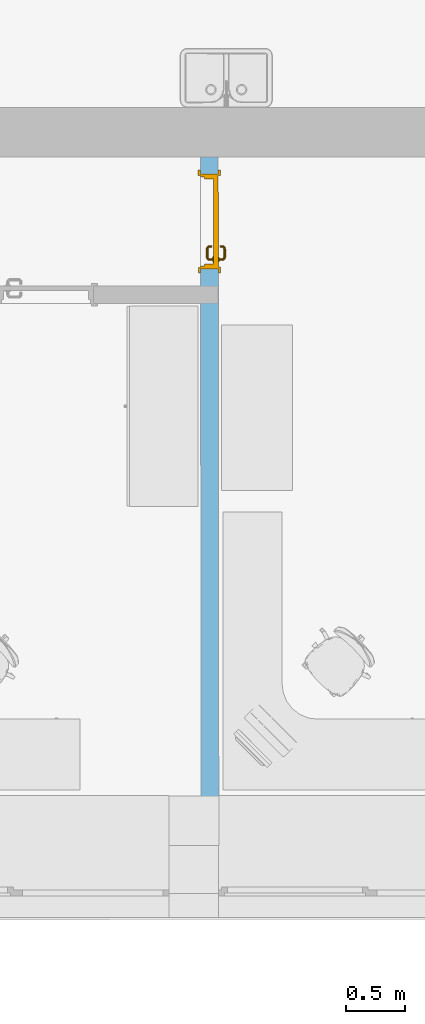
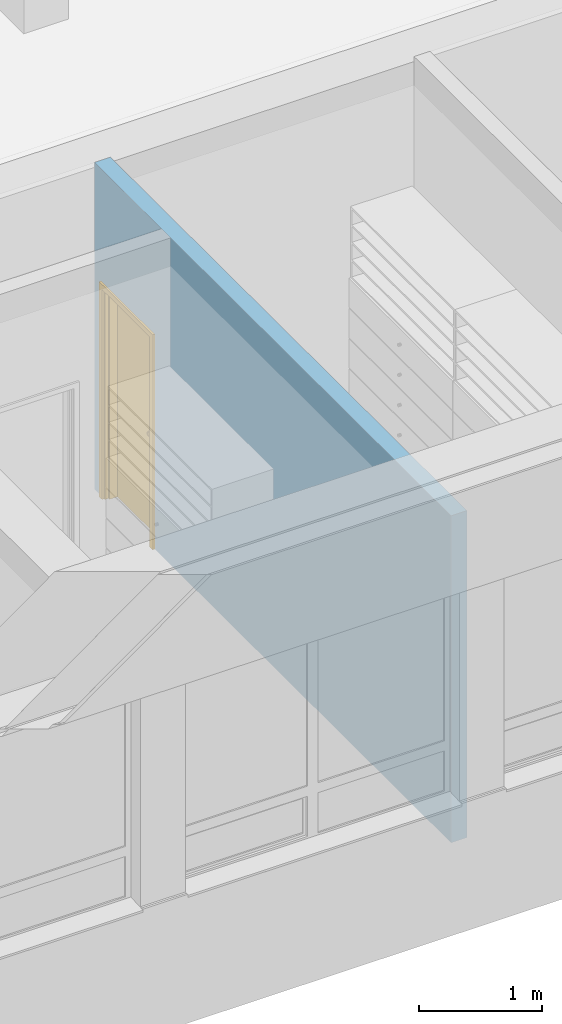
# One storey, part 66 of 194: 1 door, 1 opening, plus 1 element that does not belong to this part.
"""IFC2X3 building model written with IfcOpenShell, lengths in millimetres."""

from ifc_helpers import new_model, entity, si_unit, converted_unit, derived_unit, money_unit, direction, frame, origin_with_axes, origin_2d_with_axis, place, context, subcontext, project, spatial, polyline, rectangle, outline, extrude, open_shell, faceted_brep, surface_model, material, layer, layer_set, layer_usage, type_object, element, fill, save


model = new_model("IFC2X3")

# Units and contexts
model_context = context("Model", 3, precision=1e-05, world=origin_with_axes(), true_north=direction((0.0, 1.0)))
body_context = subcontext(model_context, "Body", "Model", "MODEL_VIEW")
ifc_project = project(units=[si_unit("LENGTHUNIT", "METRE", prefix="MILLI"), si_unit("AREAUNIT", "SQUARE_METRE"), si_unit("VOLUMEUNIT", "CUBIC_METRE"), converted_unit("PLANEANGLEUNIT", "DEGREE", entity("IfcPlaneAngleMeasure", 0.0174532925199), si_unit("PLANEANGLEUNIT", "RADIAN"), dimensions=[0, 0, 0, 0, 0, 0, 0]), si_unit("SOLIDANGLEUNIT", "STERADIAN"), money_unit("EUR"), converted_unit("TIMEUNIT", "Year", entity("IfcTimeMeasure", 31556926.0), si_unit("TIMEUNIT", "SECOND"), dimensions=[0, 0, 1, 0, 0, 0, 0]), si_unit("MASSUNIT", "GRAM", prefix="KILO"), si_unit("THERMODYNAMICTEMPERATUREUNIT", "DEGREE_CELSIUS"), si_unit("LUMINOUSINTENSITYUNIT", "LUMEN"), si_unit("ENERGYUNIT", "JOULE", prefix="MEGA"), derived_unit("THERMALCONDUCTANCEUNIT", [(si_unit("POWERUNIT", "WATT"), 1), (si_unit("LENGTHUNIT", "METRE"), -1), (si_unit("THERMODYNAMICTEMPERATUREUNIT", "KELVIN"), -1)]), derived_unit("SPECIFICHEATCAPACITYUNIT", [(si_unit("ENERGYUNIT", "JOULE"), 1), (si_unit("MASSUNIT", "GRAM", prefix="KILO"), -1), (si_unit("THERMODYNAMICTEMPERATUREUNIT", "KELVIN"), -1)]), derived_unit("MASSDENSITYUNIT", [(si_unit("MASSUNIT", "GRAM", prefix="KILO"), 1), (si_unit("VOLUMEUNIT", "CUBIC_METRE"), -1)])], contexts=[model_context])

# Site, building, storey
site_placement = place(None, origin_with_axes())
site = spatial("IfcSite", under=ifc_project, at=site_placement, Name="Site", CompositionType="ELEMENT")
building_placement = place(site_placement, origin_with_axes())
building = spatial("IfcBuilding", under=site, at=building_placement, Name="Building", CompositionType="ELEMENT")
storey_placement = place(building_placement, frame((0.0, 0.0, 3000.0), z_axis=(0.0, 0.0, 1.0), x_axis=(1.0, 0.0, 0.0)))
storey = spatial("IfcBuildingStorey", under=building, at=storey_placement, Name="2 KORRUS", CompositionType="ELEMENT", Elevation=3000.0)

# Wall, opening, door
ifc_material = material(Name="Kivi -Ol.Olev Konstruktsioon")
ifc_layer = layer(ifc_material, 150.0, ventilated="UNKNOWN")
ifc_layer_set = layer_set([ifc_layer], Name="ol.olev ss 150")
ifc_layer_usage = layer_usage(ifc_layer_set, "AXIS2", "NEGATIVE", 0.0)
wall_type = type_object("IfcWallType", Name="SW - 022", PredefinedType="NOTDEFINED")
wall_placement = place(storey_placement, frame((91152.1959133, 41003.0649281, 0.0), z_axis=(0.0, 0.0, 1.0), x_axis=(0.000886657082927, -0.99999960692, 0.0)))
wall = element("IfcWallStandardCase", 1, at=wall_placement, inside=storey, type_object=wall_type, material=ifc_layer_usage, Name="ol.olev ss 150", context=body_context, shape_type="SweptSolid", body=[
    extrude(outline(polyline([(419.867166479, -150.0), (6217.02864315, -150.0), (6217.14885517, 0.0), (420.000165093, -1.13686837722e-10), (419.867166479, -150.0)])), origin_with_axes(), (0.0, 0.0, 1.0), 3250.0),
])
opening_placement = place(wall_placement, frame((963.742575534, -1.13686837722e-10, 0.0), z_axis=(0.0, 0.0, 1.0), x_axis=(1.0, 0.0, 0.0)))
opening = element("IfcOpeningElement", 2, at=opening_placement, cuts=wall, Name="Siseuks * Door 22", context=body_context, shape_type="SweptSolid", body=[
    extrude(rectangle(XDim=800.000000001, YDim=2100.0, at=origin_2d_with_axis()), frame((0.0, -150.0, 1050.0), z_axis=(0.0, -1.0, 0.0), x_axis=(-1.0, 0.0, 0.0)), (0.0, 0.0, -1.0), 450.0),
    extrude(rectangle(XDim=874.0, YDim=2137.0, at=origin_2d_with_axis()), frame((0.0, -150.0, 1068.5), z_axis=(0.0, -1.0, 0.0), x_axis=(-1.0, 0.0, 0.0)), (0.0, 0.0, 1.0), 150.0),
    extrude(rectangle(XDim=874.0, YDim=2137.0, at=origin_2d_with_axis()), frame((-9.09494701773e-10, 0.0, 1068.5), z_axis=(0.0, 1.0, 0.0), x_axis=(-1.0, 0.0, 0.0)), (0.0, 0.0, 1.0), 150.0),
])
door_style = type_object("IfcDoorStyle", Name="SU-B244   800×2\xa0100", ConstructionType="NOTDEFINED", OperationType="SINGLE_SWING_LEFT", ParameterTakesPrecedence=False, Sizeable=False)
door_placement = place(opening_placement, frame((-400.000000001, 1.13686837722e-10, 0.0), z_axis=(0.0, 0.0, 1.0), x_axis=(1.0, 0.0, 0.0)))
door = element("IfcDoor", 3, at=door_placement, inside=storey, type_object=door_style, Name="Siseuks * Door 22", OverallHeight=2100.0, OverallWidth=800.0, context=body_context, shape_type="SurfaceModel", body=[
    faceted_brep([(800.0, -115.0, 0.0), (800.000000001, -150.0, 0.0), (775.000000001, -150.0, 0.0), (775.000000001, -115.0, 0.0), (800.0, -115.0, 2100.0), (800.000000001, -150.0, 2100.0), (775.000000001, -150.0, 2075.0), (775.000000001, -115.0, 2075.0)], [[[0, 1, 2, 3]], [[4, 5, 1, 0]], [[1, 5, 6, 2]], [[3, 2, 6, 7]], [[0, 3, 7, 4]], [[7, 6, 5, 4]]]),
    faceted_brep([(0.0, -115.0, 2100.0), (9.09494701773e-10, -150.0, 2100.0), (25.0000000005, -150.0, 2075.0), (25.0000000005, -115.0, 2075.0), (0.0, -115.0, 0.0), (9.09494701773e-10, -150.0, 0.0), (25.0000000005, -150.0, 0.0), (25.0000000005, -115.0, 0.0)], [[[0, 1, 2, 3]], [[4, 5, 1, 0]], [[1, 5, 6, 2]], [[3, 2, 6, 7]], [[0, 3, 7, 4]], [[7, 6, 5, 4]]]),
    faceted_brep([(775.000000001, -115.0, 2075.0), (775.000000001, -150.0, 2075.0), (25.0000000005, -150.0, 2075.0), (25.0000000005, -115.0, 2075.0), (800.0, -115.0, 2100.0), (800.000000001, -150.0, 2100.0), (9.09494701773e-10, -150.0, 2100.0), (0.0, -115.0, 2100.0)], [[[0, 1, 2, 3]], [[4, 5, 1, 0]], [[1, 5, 6, 2]], [[3, 2, 6, 7]], [[0, 3, 7, 4]], [[7, 6, 5, 4]]]),
    faceted_brep([(837.0, -169.0, 0.0), (787.0, -169.0, 0.0), (787.0, -150.0, 0.0), (837.0, -150.0, 0.0), (837.0, -169.0, 2137.0), (787.0, -169.0, 2087.0), (787.0, -150.0, 2087.0), (837.0, -150.0, 2137.0)], [[[0, 1, 2, 3]], [[0, 4, 5, 1]], [[1, 5, 6, 2]], [[3, 2, 6, 7]], [[4, 0, 3, 7]], [[5, 4, 7, 6]]]),
    faceted_brep([(-36.9999999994, -169.0, 2137.0), (12.9999999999, -169.0, 2087.0), (13.0000000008, -150.0, 2087.0), (-36.9999999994, -150.0, 2137.0), (-36.9999999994, -169.0, 0.0), (12.9999999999, -169.0, 0.0), (13.0000000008, -150.0, 0.0), (-36.9999999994, -150.0, 0.0)], [[[0, 1, 2, 3]], [[0, 4, 5, 1]], [[1, 5, 6, 2]], [[3, 2, 6, 7]], [[4, 0, 3, 7]], [[5, 4, 7, 6]]]),
    faceted_brep([(837.0, -169.0, 2137.0), (787.0, -169.0, 2087.0), (787.0, -150.0, 2087.0), (837.0, -150.0, 2137.0), (-36.9999999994, -169.0, 2137.0), (12.9999999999, -169.0, 2087.0), (13.0000000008, -150.0, 2087.0), (-36.9999999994, -150.0, 2137.0)], [[[0, 1, 2, 3]], [[0, 4, 5, 1]], [[1, 5, 6, 2]], [[3, 2, 6, 7]], [[4, 0, 3, 7]], [[5, 4, 7, 6]]]),
    faceted_brep([(837.0, 19.0000000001, 0.0), (837.0, 0.0, 0.0), (787.0, 1.13686837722e-10, 0.0), (787.000000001, 19.0000000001, 0.0), (837.0, 19.0000000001, 2137.0), (837.0, 0.0, 2137.0), (787.0, 1.13686837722e-10, 2087.0), (787.000000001, 19.0000000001, 2087.0)], [[[0, 1, 2, 3]], [[4, 5, 1, 0]], [[1, 5, 6, 2]], [[3, 2, 6, 7]], [[0, 3, 7, 4]], [[7, 6, 5, 4]]]),
    faceted_brep([(-36.9999999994, 19.0, 2137.0), (-37.0000000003, 0.0, 2137.0), (13.0000000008, 0.0, 2087.0), (12.9999999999, 19.0, 2087.0), (-36.9999999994, 19.0, 0.0), (-37.0000000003, 0.0, 0.0), (13.0000000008, 0.0, 0.0), (12.9999999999, 19.0, 0.0)], [[[0, 1, 2, 3]], [[4, 5, 1, 0]], [[1, 5, 6, 2]], [[3, 2, 6, 7]], [[0, 3, 7, 4]], [[7, 6, 5, 4]]]),
    faceted_brep([(837.0, 19.0000000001, 2137.0), (837.0, 0.0, 2137.0), (787.0, 1.13686837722e-10, 2087.0), (787.000000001, 19.0000000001, 2087.0), (-36.9999999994, 19.0, 2137.0), (-37.0000000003, 0.0, 2137.0), (13.0000000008, 0.0, 2087.0), (12.9999999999, 19.0, 2087.0)], [[[0, 1, 2, 3]], [[4, 5, 1, 0]], [[1, 5, 6, 2]], [[3, 2, 6, 7]], [[0, 3, 7, 4]], [[7, 6, 5, 4]]]),
    faceted_brep([(760.000000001, -40.0000000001, 0.0), (760.0, -115.0, 0.0), (760.0, -115.0, 2060.0), (760.000000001, -40.0000000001, 2060.0), (772.0, -39.9999999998, 0.0), (772.000000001, 1.13686837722e-10, 0.0), (800.0, 0.0, 0.0), (800.0, -115.0, 0.0), (800.0, -115.0, 2060.0), (772.0, -39.9999999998, 2060.0), (800.0, 0.0, 2060.0), (772.000000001, 1.13686837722e-10, 2060.0)], [[[0, 1, 2, 3]], [[4, 5, 6, 7, 1, 0]], [[1, 7, 8, 2]], [[9, 3, 2, 8, 10, 11]], [[9, 4, 0, 3]], [[11, 5, 4, 9]], [[11, 10, 6, 5]], [[6, 10, 8, 7]]]),
    faceted_brep([(27.9999999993, -40.0, 2060.0), (28.0000000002, 1.13686837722e-10, 2060.0), (0.0, 0.0, 2060.0), (0.0, -115.0, 2060.0), (40.0, -115.0, 2060.0), (40.0, -39.9999999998, 2060.0), (27.9999999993, -40.0, 0.0), (28.0000000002, 1.13686837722e-10, 0.0), (0.0, 0.0, 0.0), (0.0, -115.0, 0.0), (40.0, -115.0, 0.0), (40.0, -39.9999999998, 0.0)], [[[0, 1, 2, 3, 4, 5]], [[0, 6, 7, 1]], [[7, 8, 2, 1]], [[2, 8, 9, 3]], [[3, 9, 10, 4]], [[5, 4, 10, 11]], [[5, 11, 6, 0]], [[6, 11, 10, 9, 8, 7]]]),
    faceted_brep([(772.000000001, 1.13686837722e-10, 2072.0), (28.0000000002, 1.13686837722e-10, 2072.0), (28.0000000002, 1.13686837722e-10, 2060.0), (0.0, 0.0, 2060.0), (0.0, 0.0, 2100.0), (800.0, 0.0, 2100.0), (800.0, 0.0, 2060.0), (772.000000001, 1.13686837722e-10, 2060.0), (772.0, -39.9999999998, 2072.0), (27.9999999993, -40.0, 2072.0), (27.9999999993, -40.0, 2060.0), (40.0, -39.9999999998, 2060.0), (40.0, -115.0, 2060.0), (0.0, -115.0, 2060.0), (0.0, -115.0, 2100.0), (800.0, -115.0, 2100.0), (800.0, -115.0, 2060.0), (772.0, -39.9999999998, 2060.0), (760.0, -115.0, 2060.0), (760.000000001, -40.0000000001, 2060.0)], [[[0, 1, 2, 3, 4, 5, 6, 7]], [[0, 8, 9, 1]], [[1, 9, 10, 2]], [[10, 11, 12, 13, 3, 2]], [[4, 3, 13, 14]], [[5, 4, 14, 15]], [[6, 5, 15, 16]], [[17, 7, 6, 16, 18, 19]], [[7, 17, 8, 0]], [[10, 9, 8, 17, 19, 11]], [[19, 18, 12, 11]], [[12, 18, 16, 15, 14, 13]]]),
    faceted_brep([(750.499999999, -40.0, 1060.0), (693.5, -40.0000000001, 1060.0), (693.500000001, -42.9999999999, 1060.0), (750.5, -43.0, 1060.0), (750.499999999, -40.0, 870.0), (693.5, -40.0000000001, 870.0), (693.500000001, -42.9999999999, 870.0), (750.5, -43.0, 870.0)], [[[0, 1, 2, 3]], [[0, 4, 5, 1]], [[1, 5, 6, 2]], [[3, 2, 6, 7]], [[4, 0, 3, 7]], [[5, 4, 7, 6]]]),
    surface_model("IfcShellBasedSurfaceModel", [(712.0, -52.9999999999, 1000.0), (714.928932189, -52.9999999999, 992.928932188), (714.928932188, -72.3035606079, 992.928932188), (712.0, -72.0150859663, 1000.0), (722.000000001, -53.0, 990.0), (722.0, -72.9999999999, 990.0), (713.816790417, -77.8946748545, 992.928932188), (711.057796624, -76.7518622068, 1000.0), (714.928932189, -52.9999999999, 1007.07106781), (714.928932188, -72.3035606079, 1007.07106781), (729.071067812, -52.9999999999, 992.928932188), (729.071067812, -73.6964393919, 992.928932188), (720.47759065, -80.6536686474, 990.0), (711.044179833, -82.0441798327, 992.928932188), (708.932537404, -79.9325374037, 1000.0), (713.816790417, -77.8946748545, 1007.07106781), (722.000000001, -53.0, 1010.0), (722.0, -72.9999999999, 1010.0), (732.0, -52.9999999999, 1000.0), (732.0, -73.9849140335, 1000.0), (727.138390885, -83.4126624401, 992.928932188), (716.142135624, -87.1421356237, 990.0), (706.894674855, -84.816790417, 992.928932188), (705.751862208, -82.0577966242, 1000.0), (711.044179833, -82.0441798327, 1007.07106781), (720.47759065, -80.6536686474, 1010.0), (729.071067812, -52.9999999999, 1007.07106781), (729.071067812, -73.6964393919, 1007.07106781), (729.897384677, -84.5554750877, 1000.0), (721.240091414, -92.2400914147, 992.928932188), (709.653668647, -91.4775906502, 990.0), (701.303560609, -85.928932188, 992.928932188), (701.015085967, -82.9999999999, 1000.0), (706.894674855, -84.816790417, 1007.07106781), (716.142135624, -87.1421356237, 1010.0), (727.138390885, -83.4126624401, 1007.07106781), (723.351733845, -94.3517338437, 1000.0), (712.412662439, -98.1383908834, 992.928932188), (702.000000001, -93.0000000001, 990.0), (632.696439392, -85.928932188, 992.928932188), (632.984914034, -83.0, 1000.0), (701.303560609, -85.928932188, 1007.07106781), (709.653668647, -91.4775906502, 1010.0), (721.240091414, -92.2400914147, 1007.07106781), (713.555475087, -100.897384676, 1000.0), (702.696439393, -100.071067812, 992.928932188), (632.0, -93.0, 990.0), (627.105325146, -84.816790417, 992.928932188), (628.248137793, -82.0577966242, 1000.0), (632.696439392, -85.928932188, 1007.07106781), (702.000000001, -93.0000000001, 1010.0), (712.412662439, -98.1383908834, 1007.07106781), (702.984914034, -103.0, 1000.0), (631.303560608, -100.071067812, 992.928932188), (624.346331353, -91.4775906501, 990.0), (622.955820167, -82.0441798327, 992.928932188), (625.067462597, -79.9325374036, 1000.0), (627.105325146, -84.816790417, 1007.07106781), (632.0, -93.0, 1010.0), (702.696439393, -100.071067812, 1007.07106781), (631.015085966, -103.0, 1000.0), (621.58733756, -98.1383908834, 992.928932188), (617.857864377, -87.1421356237, 990.0), (620.183209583, -77.8946748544, 992.928932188), (622.942203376, -76.7518622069, 1000.0), (622.955820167, -82.0441798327, 1007.07106781), (624.346331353, -91.4775906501, 1010.0), (631.303560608, -100.071067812, 1007.07106781), (620.444524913, -100.897384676, 1000.0), (612.759908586, -92.2400914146, 992.928932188), (613.52240935, -80.6536686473, 990.0), (619.071067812, -72.3035606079, 992.928932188), (621.999999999, -72.0150859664, 1000.0), (620.183209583, -77.8946748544, 1007.07106781), (617.857864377, -87.1421356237, 1010.0), (621.58733756, -98.1383908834, 1007.07106781), (610.648266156, -94.3517338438, 1000.0), (606.861609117, -83.4126624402, 992.928932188), (612.0, -73.0, 990.0), (619.071067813, -53.0, 992.928932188), (622.000000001, -53.0, 1000.0), (619.071067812, -72.3035606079, 1007.07106781), (613.52240935, -80.6536686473, 1010.0), (612.759908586, -92.2400914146, 1007.07106781), (604.102615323, -84.5554750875, 1000.0), (604.928932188, -73.6964393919, 992.928932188), (612.000000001, -53.0, 990.0), (604.928932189, -53.0, 992.928932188), (602.000000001, -53.0, 1000.0), (604.928932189, -53.0, 1007.07106781), (612.000000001, -53.0, 1010.0), (619.071067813, -53.0, 1007.07106781), (612.0, -73.0, 1010.0), (606.861609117, -83.4126624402, 1007.07106781), (602.000000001, -73.9849140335, 1000.0), (604.928932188, -73.6964393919, 1007.07106781)], [open_shell([[[0, 1, 2, 3]], [[1, 4, 5, 2]], [[3, 2, 6, 7]], [[8, 0, 3, 9]], [[4, 10, 11, 5]], [[2, 5, 12, 6]], [[7, 6, 13, 14]], [[9, 3, 7, 15]], [[16, 8, 9, 17]], [[10, 18, 19, 11]], [[5, 11, 20, 12]], [[6, 12, 21, 13]], [[14, 13, 22, 23]], [[15, 7, 14, 24]], [[17, 9, 15, 25]], [[26, 16, 17, 27]], [[18, 26, 27, 19]], [[11, 19, 28, 20]], [[12, 20, 29, 21]], [[13, 21, 30, 22]], [[23, 22, 31, 32]], [[24, 14, 23, 33]], [[25, 15, 24, 34]], [[27, 17, 25, 35]], [[19, 27, 35, 28]], [[20, 28, 36, 29]], [[21, 29, 37, 30]], [[22, 30, 38, 31]], [[32, 31, 39, 40]], [[33, 23, 32, 41]], [[34, 24, 33, 42]], [[35, 25, 34, 43]], [[28, 35, 43, 36]], [[29, 36, 44, 37]], [[30, 37, 45, 38]], [[31, 38, 46, 39]], [[40, 39, 47, 48]], [[41, 32, 40, 49]], [[42, 33, 41, 50]], [[43, 34, 42, 51]], [[36, 43, 51, 44]], [[37, 44, 52, 45]], [[38, 45, 53, 46]], [[39, 46, 54, 47]], [[48, 47, 55, 56]], [[49, 40, 48, 57]], [[50, 41, 49, 58]], [[51, 42, 50, 59]], [[44, 51, 59, 52]], [[45, 52, 60, 53]], [[46, 53, 61, 54]], [[47, 54, 62, 55]], [[56, 55, 63, 64]], [[57, 48, 56, 65]], [[58, 49, 57, 66]], [[59, 50, 58, 67]], [[52, 59, 67, 60]], [[53, 60, 68, 61]], [[54, 61, 69, 62]], [[55, 62, 70, 63]], [[64, 63, 71, 72]], [[65, 56, 64, 73]], [[66, 57, 65, 74]], [[67, 58, 66, 75]], [[60, 67, 75, 68]], [[61, 68, 76, 69]], [[62, 69, 77, 70]], [[63, 70, 78, 71]], [[72, 71, 79, 80]], [[73, 64, 72, 81]], [[74, 65, 73, 82]], [[75, 66, 74, 83]], [[68, 75, 83, 76]], [[69, 76, 84, 77]], [[70, 77, 85, 78]], [[71, 78, 86, 79]], [[80, 79, 86, 87, 88, 89, 90, 91]], [[81, 72, 80, 91]], [[82, 73, 81, 92]], [[83, 74, 82, 93]], [[76, 83, 93, 84]], [[77, 84, 94, 85]], [[78, 85, 87, 86]], [[85, 94, 88, 87]], [[94, 95, 89, 88]], [[95, 92, 90, 89]], [[92, 81, 91, 90]], [[93, 82, 92, 95]], [[84, 93, 95, 94]]])]),
    faceted_brep([(711.607695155, -53.0, 994.0), (710.0, -53.0, 1000.0), (709.0, -43.0, 1000.0), (710.741669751, -42.9999999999, 993.5), (716.0, -53.0, 989.607695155), (722.000000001, -53.0, 988.0), (728.0, -53.0, 989.607695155), (732.392304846, -53.0, 994.0), (734.0, -53.0, 1000.0), (732.392304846, -53.0, 1006.0), (728.0, -53.0, 1010.39230485), (722.000000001, -53.0, 1012.0), (716.0, -53.0, 1010.39230485), (711.607695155, -53.0, 1006.0), (710.741669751, -42.9999999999, 1006.5), (715.5, -43.0, 1011.25833025), (722.000000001, -42.9999999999, 1013.0), (728.5, -42.9999999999, 1011.25833025), (733.258330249, -43.0, 1006.5), (735.0, -42.9999999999, 1000.0), (733.258330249, -43.0, 993.5), (728.5, -42.9999999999, 988.741669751), (722.000000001, -42.9999999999, 987.0), (715.5, -43.0, 988.741669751)], [[[0, 1, 2, 3]], [[1, 0, 4, 5, 6, 7, 8, 9, 10, 11, 12, 13]], [[1, 13, 14, 2]], [[2, 14, 15, 16, 17, 18, 19, 20, 21, 22, 23, 3]], [[4, 0, 3, 23]], [[5, 4, 23, 22]], [[6, 5, 22, 21]], [[7, 6, 21, 20]], [[8, 7, 20, 19]], [[9, 8, 19, 18]], [[10, 9, 18, 17]], [[11, 10, 17, 16]], [[12, 11, 16, 15]], [[13, 12, 15, 14]]]),
    faceted_brep([(704.679491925, -46.9999999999, 895.0), (701.999999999, -46.9999999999, 905.0), (700.0, -42.9999999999, 905.0), (702.947441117, -43.0, 894.0), (712.0, -47.0, 887.679491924), (722.0, -46.9999999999, 885.0), (732.0, -47.0, 887.679491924), (739.320508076, -46.9999999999, 895.0), (741.999999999, -46.9999999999, 905.0), (739.320508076, -46.9999999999, 915.0), (732.0, -47.0, 922.320508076), (722.0, -46.9999999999, 925.0), (712.0, -47.0, 922.320508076), (704.679491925, -46.9999999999, 915.0), (702.947441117, -43.0, 916.0), (711.0, -43.0, 924.052558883), (722.000000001, -42.9999999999, 927.0), (733.0, -42.9999999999, 924.052558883), (741.052558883, -43.0, 916.0), (744.000000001, -42.9999999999, 905.0), (741.052558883, -43.0, 894.0), (733.0, -42.9999999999, 885.947441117), (722.000000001, -42.9999999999, 883.0), (711.0, -43.0, 885.947441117)], [[[0, 1, 2, 3]], [[1, 0, 4, 5, 6, 7, 8, 9, 10, 11, 12, 13]], [[1, 13, 14, 2]], [[2, 14, 15, 16, 17, 18, 19, 20, 21, 22, 23, 3]], [[4, 0, 3, 23]], [[5, 4, 23, 22]], [[6, 5, 22, 21]], [[7, 6, 21, 20]], [[8, 7, 20, 19]], [[9, 8, 19, 18]], [[10, 9, 18, 17]], [[11, 10, 17, 16]], [[12, 11, 16, 15]], [[13, 12, 15, 14]]]),
    faceted_brep([(717.050252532, -49.0, 909.050252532), (715.0, -49.0, 914.0), (714.0, -47.0, 914.0), (716.343145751, -47.0, 908.343145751), (722.000000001, -49.0, 907.0), (726.949747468, -49.0, 909.050252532), (728.999999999, -49.0, 914.0), (726.949747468, -49.0, 918.949747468), (722.000000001, -49.0, 921.0), (717.050252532, -49.0, 918.949747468), (716.343145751, -47.0, 919.656854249), (722.0, -46.9999999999, 922.0), (727.65685425, -47.0, 919.656854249), (730.0, -46.9999999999, 914.0), (727.65685425, -47.0, 908.343145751), (722.0, -46.9999999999, 906.0)], [[[0, 1, 2, 3]], [[1, 0, 4, 5, 6, 7, 8, 9]], [[1, 9, 10, 2]], [[2, 10, 11, 12, 13, 14, 15, 3]], [[4, 0, 3, 15]], [[5, 4, 15, 14]], [[6, 5, 14, 13]], [[7, 6, 13, 12]], [[8, 7, 12, 11]], [[9, 8, 11, 10]]]),
    faceted_brep([(750.500000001, 0.0, 1060.0), (750.5, 3.00000000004, 1060.0), (693.5, 3.00000000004, 1060.0), (693.5, 0.0, 1060.0), (750.500000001, 0.0, 870.0), (750.5, 3.00000000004, 870.0), (693.5, 3.00000000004, 870.0), (693.5, 0.0, 870.0)], [[[0, 1, 2, 3]], [[4, 5, 1, 0]], [[1, 5, 6, 2]], [[3, 2, 6, 7]], [[0, 3, 7, 4]], [[7, 6, 5, 4]]]),
    surface_model("IfcShellBasedSurfaceModel", [(712.0, 12.9999999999, 1000.0), (712.0, 32.0150859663, 1000.0), (714.928932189, 32.3035606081, 992.928932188), (714.928932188, 13.0, 992.928932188), (714.928932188, 13.0, 1007.07106781), (714.928932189, 32.3035606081, 1007.07106781), (711.057796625, 36.7518622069, 1000.0), (713.816790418, 37.8946748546, 992.928932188), (722.0, 33.0, 990.0), (722.000000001, 13.0, 990.0), (722.000000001, 13.0, 1010.0), (722.0, 33.0, 1010.0), (713.816790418, 37.8946748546, 1007.07106781), (708.932537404, 39.9325374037, 1000.0), (711.044179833, 42.0441798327, 992.928932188), (720.47759065, 40.6536686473, 990.0), (729.071067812, 33.696439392, 992.928932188), (729.071067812, 13.0, 992.928932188), (729.071067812, 13.0, 1007.07106781), (729.071067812, 33.696439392, 1007.07106781), (720.47759065, 40.6536686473, 1010.0), (711.044179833, 42.0441798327, 1007.07106781), (705.751862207, 42.0577966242, 1000.0), (706.894674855, 44.816790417, 992.928932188), (716.142135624, 47.1421356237, 990.0), (727.138390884, 43.4126624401, 992.928932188), (732.0, 33.9849140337, 1000.0), (732.0, 13.0, 1000.0), (727.138390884, 43.4126624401, 1007.07106781), (716.142135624, 47.1421356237, 1010.0), (706.894674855, 44.816790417, 1007.07106781), (701.015085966, 43.0000000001, 1000.0), (701.303560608, 45.9289321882, 992.928932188), (709.653668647, 51.4775906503, 990.0), (721.240091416, 52.2400914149, 992.928932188), (729.897384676, 44.5554750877, 1000.0), (721.240091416, 52.2400914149, 1007.07106781), (709.653668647, 51.4775906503, 1010.0), (701.303560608, 45.9289321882, 1007.07106781), (632.984914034, 43.0, 1000.0), (632.696439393, 45.9289321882, 992.928932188), (702.0, 53.0, 990.0), (712.41266244, 58.1383908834, 992.928932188), (723.351733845, 54.3517338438, 1000.0), (712.41266244, 58.1383908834, 1007.07106781), (702.0, 53.0, 1010.0), (632.696439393, 45.9289321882, 1007.07106781), (628.248137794, 42.0577966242, 1000.0), (627.105325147, 44.8167904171, 992.928932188), (632.0, 53.0000000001, 990.0), (702.696439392, 60.0710678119, 992.928932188), (713.555475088, 60.8973846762, 1000.0), (702.696439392, 60.0710678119, 1007.07106781), (632.0, 53.0000000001, 1010.0), (627.105325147, 44.8167904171, 1007.07106781), (625.067462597, 39.9325374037, 1000.0), (622.955820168, 42.0441798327, 992.928932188), (624.346331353, 51.4775906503, 990.0), (631.303560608, 60.0710678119, 992.928932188), (702.984914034, 63.0, 1000.0), (631.303560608, 60.0710678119, 1007.07106781), (624.346331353, 51.4775906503, 1010.0), (622.955820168, 42.0441798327, 1007.07106781), (622.942203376, 36.7518622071, 1000.0), (620.183209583, 37.8946748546, 992.928932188), (617.857864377, 47.1421356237, 990.0), (621.58733756, 58.1383908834, 992.928932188), (631.015085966, 63.0000000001, 1000.0), (621.58733756, 58.1383908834, 1007.07106781), (617.857864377, 47.1421356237, 1010.0), (620.183209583, 37.8946748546, 1007.07106781), (622.0, 32.0150859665, 1000.0), (619.071067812, 32.3035606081, 992.928932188), (613.52240935, 40.6536686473, 990.0), (612.759908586, 52.2400914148, 992.928932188), (620.444524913, 60.8973846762, 1000.0), (612.759908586, 52.2400914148, 1007.07106781), (613.52240935, 40.6536686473, 1010.0), (619.071067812, 32.3035606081, 1007.07106781), (622.0, 13.0, 1000.0), (619.071067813, 13.0, 992.928932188), (612.0, 33.0, 990.0), (606.861609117, 43.4126624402, 992.928932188), (610.648266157, 54.3517338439, 1000.0), (606.861609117, 43.4126624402, 1007.07106781), (612.0, 33.0, 1010.0), (619.071067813, 13.0, 1007.07106781), (612.0, 13.0, 1010.0), (604.928932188, 13.0, 1007.07106781), (602.000000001, 13.0, 1000.0), (604.928932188, 13.0, 992.928932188), (612.0, 13.0, 990.0), (604.928932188, 33.696439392, 992.928932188), (604.102615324, 44.5554750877, 1000.0), (604.928932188, 33.696439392, 1007.07106781), (602.000000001, 33.9849140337, 1000.0)], [open_shell([[[0, 1, 2, 3]], [[4, 5, 1, 0]], [[1, 6, 7, 2]], [[3, 2, 8, 9]], [[10, 11, 5, 4]], [[5, 12, 6, 1]], [[6, 13, 14, 7]], [[2, 7, 15, 8]], [[9, 8, 16, 17]], [[18, 19, 11, 10]], [[11, 20, 12, 5]], [[12, 21, 13, 6]], [[13, 22, 23, 14]], [[7, 14, 24, 15]], [[8, 15, 25, 16]], [[17, 16, 26, 27]], [[27, 26, 19, 18]], [[19, 28, 20, 11]], [[20, 29, 21, 12]], [[21, 30, 22, 13]], [[22, 31, 32, 23]], [[14, 23, 33, 24]], [[15, 24, 34, 25]], [[16, 25, 35, 26]], [[26, 35, 28, 19]], [[28, 36, 29, 20]], [[29, 37, 30, 21]], [[30, 38, 31, 22]], [[31, 39, 40, 32]], [[23, 32, 41, 33]], [[24, 33, 42, 34]], [[25, 34, 43, 35]], [[35, 43, 36, 28]], [[36, 44, 37, 29]], [[37, 45, 38, 30]], [[38, 46, 39, 31]], [[39, 47, 48, 40]], [[32, 40, 49, 41]], [[33, 41, 50, 42]], [[34, 42, 51, 43]], [[43, 51, 44, 36]], [[44, 52, 45, 37]], [[45, 53, 46, 38]], [[46, 54, 47, 39]], [[47, 55, 56, 48]], [[40, 48, 57, 49]], [[41, 49, 58, 50]], [[42, 50, 59, 51]], [[51, 59, 52, 44]], [[52, 60, 53, 45]], [[53, 61, 54, 46]], [[54, 62, 55, 47]], [[55, 63, 64, 56]], [[48, 56, 65, 57]], [[49, 57, 66, 58]], [[50, 58, 67, 59]], [[59, 67, 60, 52]], [[60, 68, 61, 53]], [[61, 69, 62, 54]], [[62, 70, 63, 55]], [[63, 71, 72, 64]], [[56, 64, 73, 65]], [[57, 65, 74, 66]], [[58, 66, 75, 67]], [[67, 75, 68, 60]], [[68, 76, 69, 61]], [[69, 77, 70, 62]], [[70, 78, 71, 63]], [[71, 79, 80, 72]], [[64, 72, 81, 73]], [[65, 73, 82, 74]], [[66, 74, 83, 75]], [[75, 83, 76, 68]], [[76, 84, 77, 69]], [[77, 85, 78, 70]], [[78, 86, 79, 71]], [[79, 86, 87, 88, 89, 90, 91, 80]], [[72, 80, 91, 81]], [[73, 81, 92, 82]], [[74, 82, 93, 83]], [[83, 93, 84, 76]], [[84, 94, 85, 77]], [[85, 87, 86, 78]], [[94, 88, 87, 85]], [[95, 89, 88, 94]], [[92, 90, 89, 95]], [[81, 91, 90, 92]], [[82, 92, 95, 93]], [[93, 95, 94, 84]]])]),
    faceted_brep([(711.607695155, 13.0, 994.0), (710.741669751, 3.00000000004, 993.5), (709.000000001, 3.00000000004, 1000.0), (710.000000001, 12.9999999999, 1000.0), (716.0, 13.0, 989.607695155), (715.5, 3.00000000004, 988.741669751), (722.000000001, 3.00000000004, 987.0), (728.5, 2.99999999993, 988.741669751), (733.25833025, 3.00000000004, 993.5), (735.000000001, 2.99999999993, 1000.0), (733.25833025, 3.00000000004, 1006.5), (728.5, 2.99999999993, 1011.25833025), (722.000000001, 3.00000000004, 1013.0), (715.5, 3.00000000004, 1011.25833025), (710.741669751, 3.00000000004, 1006.5), (711.607695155, 13.0, 1006.0), (716.0, 13.0, 1010.39230485), (722.000000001, 13.0, 1012.0), (728.0, 12.9999999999, 1010.39230485), (732.392304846, 13.0, 1006.0), (733.999999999, 13.0, 1000.0), (732.392304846, 13.0, 994.0), (728.0, 12.9999999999, 989.607695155), (722.000000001, 13.0, 988.0)], [[[0, 1, 2, 3]], [[4, 5, 1, 0]], [[2, 1, 5, 6, 7, 8, 9, 10, 11, 12, 13, 14]], [[3, 2, 14, 15]], [[3, 15, 16, 17, 18, 19, 20, 21, 22, 23, 4, 0]], [[23, 6, 5, 4]], [[22, 7, 6, 23]], [[21, 8, 7, 22]], [[20, 9, 8, 21]], [[19, 10, 9, 20]], [[18, 11, 10, 19]], [[17, 12, 11, 18]], [[16, 13, 12, 17]], [[15, 14, 13, 16]]]),
    faceted_brep([(704.679491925, 7.00000000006, 895.0), (702.947441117, 3.00000000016, 894.0), (700.000000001, 3.00000000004, 905.0), (702.0, 7.00000000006, 905.0), (712.0, 7.00000000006, 887.679491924), (711.0, 3.00000000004, 885.947441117), (722.000000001, 3.00000000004, 883.0), (733.0, 3.00000000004, 885.947441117), (741.052558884, 3.00000000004, 894.0), (744.0, 3.00000000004, 905.0), (741.052558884, 3.00000000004, 916.0), (733.0, 3.00000000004, 924.052558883), (722.000000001, 3.00000000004, 927.0), (711.0, 3.00000000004, 924.052558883), (702.947441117, 3.00000000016, 916.0), (704.679491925, 7.00000000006, 915.0), (712.0, 7.00000000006, 922.320508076), (722.0, 6.99999999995, 925.0), (732.0, 6.99999999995, 922.320508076), (739.320508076, 7.00000000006, 915.0), (742.0, 7.00000000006, 905.0), (739.320508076, 7.00000000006, 895.0), (732.0, 6.99999999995, 887.679491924), (722.0, 6.99999999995, 885.0)], [[[0, 1, 2, 3]], [[4, 5, 1, 0]], [[2, 1, 5, 6, 7, 8, 9, 10, 11, 12, 13, 14]], [[3, 2, 14, 15]], [[3, 15, 16, 17, 18, 19, 20, 21, 22, 23, 4, 0]], [[23, 6, 5, 4]], [[22, 7, 6, 23]], [[21, 8, 7, 22]], [[20, 9, 8, 21]], [[19, 10, 9, 20]], [[18, 11, 10, 19]], [[17, 12, 11, 18]], [[16, 13, 12, 17]], [[15, 14, 13, 16]]]),
    faceted_brep([(717.050252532, 9.00000000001, 909.050252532), (716.343145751, 7.00000000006, 908.343145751), (714.000000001, 7.00000000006, 914.0), (715.0, 8.9999999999, 914.0), (722.000000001, 9.00000000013, 907.0), (722.0, 6.99999999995, 906.0), (727.656854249, 7.00000000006, 908.343145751), (730.0, 6.99999999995, 914.0), (727.656854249, 7.00000000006, 919.656854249), (722.0, 6.99999999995, 922.0), (716.343145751, 7.00000000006, 919.656854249), (717.050252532, 9.00000000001, 918.949747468), (722.000000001, 9.00000000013, 921.0), (726.949747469, 9.00000000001, 918.949747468), (729.0, 9.00000000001, 914.0), (726.949747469, 9.00000000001, 909.050252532)], [[[0, 1, 2, 3]], [[4, 5, 1, 0]], [[2, 1, 5, 6, 7, 8, 9, 10]], [[3, 2, 10, 11]], [[3, 11, 12, 13, 14, 15, 4, 0]], [[15, 6, 5, 4]], [[14, 7, 6, 15]], [[13, 8, 7, 14]], [[12, 9, 8, 13]], [[11, 10, 9, 12]]]),
    faceted_brep([(28.0000000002, 1.13686837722e-10, 0.0), (772.000000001, 1.13686837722e-10, 0.0), (772.0, -39.9999999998, 0.0), (27.9999999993, -40.0, 0.0), (28.0000000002, 1.13686837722e-10, 2072.0), (772.000000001, 1.13686837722e-10, 2072.0), (772.0, -39.9999999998, 2072.0), (27.9999999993, -40.0, 2072.0)], [[[0, 1, 2, 3]], [[0, 4, 5, 1]], [[1, 5, 6, 2]], [[3, 2, 6, 7]], [[4, 0, 3, 7]], [[5, 4, 7, 6]]]),
])
fill(opening, door)

save(model, "model.ifc")
